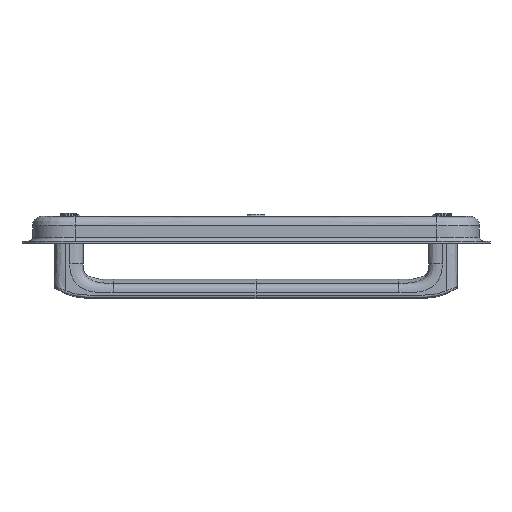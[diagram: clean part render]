
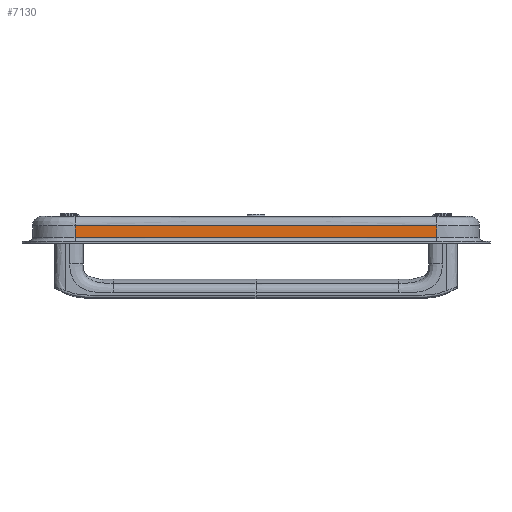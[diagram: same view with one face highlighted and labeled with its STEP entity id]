
A CAD part, left-side view. The second image highlights one B-rep face of the part: STEP entity #7130.
In plain terms, the highlighted free-form (B-spline) face has degree [2, 1] with [3, 2] control points.
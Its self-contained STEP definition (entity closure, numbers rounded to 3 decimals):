
#136=B_SPLINE_SURFACE_WITH_KNOTS('',2,1,((#17406,#17407),(#17408,#17409),
(#17410,#17411)),.UNSPECIFIED.,.F.,.F.,.F.,(3,3),(2,2),(-1.,0.),(0.,2.4),
 .UNSPECIFIED.);
#554=B_SPLINE_CURVE_WITH_KNOTS('',3,(#16524,#16525,#16526,#16527),
 .UNSPECIFIED.,.F.,.F.,(4,4),(0.,18.943),.UNSPECIFIED.);
#571=B_SPLINE_CURVE_WITH_KNOTS('',2,(#17413,#17414,#17415),
 .UNSPECIFIED.,.F.,.F.,(3,3),(0.,18.943),.UNSPECIFIED.);
#1073=FACE_OUTER_BOUND('',#1503,.T.);
#1503=EDGE_LOOP('',(#5640,#5641,#5642,#5643));
#2152=LINE('',#17416,#2625);
#2153=LINE('',#17417,#2626);
#2625=VECTOR('',#8493,10.);
#2626=VECTOR('',#8494,10.);
#2774=VERTEX_POINT('',#9496);
#3171=VERTEX_POINT('',#16410);
#3172=VERTEX_POINT('',#16523);
#3177=VERTEX_POINT('',#17412);
#4016=EDGE_CURVE('',#3172,#3171,#554,.T.);
#4043=EDGE_CURVE('',#3177,#2774,#571,.T.);
#4044=EDGE_CURVE('',#2774,#3172,#2152,.T.);
#4045=EDGE_CURVE('',#3171,#3177,#2153,.T.);
#5640=ORIENTED_EDGE('',*,*,#4043,.T.);
#5641=ORIENTED_EDGE('',*,*,#4044,.T.);
#5642=ORIENTED_EDGE('',*,*,#4016,.T.);
#5643=ORIENTED_EDGE('',*,*,#4045,.T.);
#7130=ADVANCED_FACE('',(#1073),#136,.T.);
#8493=DIRECTION('',(0.,0.,-1.));
#8494=DIRECTION('',(0.,0.,1.));
#9496=CARTESIAN_POINT('',(48.861,59.627,7.55));
#16410=CARTESIAN_POINT('',(48.861,-129.804,1.55));
#16523=CARTESIAN_POINT('',(48.861,59.627,1.55));
#16524=CARTESIAN_POINT('Ctrl Pts',(48.861,59.627,1.55));
#16525=CARTESIAN_POINT('Ctrl Pts',(48.861,-3.516,1.55));
#16526=CARTESIAN_POINT('Ctrl Pts',(48.861,-66.66,1.55));
#16527=CARTESIAN_POINT('Ctrl Pts',(48.861,-129.804,1.55));
#17406=CARTESIAN_POINT('Ctrl Pts',(48.861,59.627,-0.45));
#17407=CARTESIAN_POINT('Ctrl Pts',(48.861,59.627,23.55));
#17408=CARTESIAN_POINT('Ctrl Pts',(48.861,-35.088,-0.45));
#17409=CARTESIAN_POINT('Ctrl Pts',(48.861,-35.088,23.55));
#17410=CARTESIAN_POINT('Ctrl Pts',(48.861,-129.804,-0.45));
#17411=CARTESIAN_POINT('Ctrl Pts',(48.861,-129.804,23.55));
#17412=CARTESIAN_POINT('',(48.861,-129.804,7.55));
#17413=CARTESIAN_POINT('Ctrl Pts',(48.861,-129.804,7.55));
#17414=CARTESIAN_POINT('Ctrl Pts',(48.861,-35.088,7.55));
#17415=CARTESIAN_POINT('Ctrl Pts',(48.861,59.627,7.55));
#17416=CARTESIAN_POINT('',(48.861,59.627,14.55));
#17417=CARTESIAN_POINT('',(48.861,-129.804,1.55));
